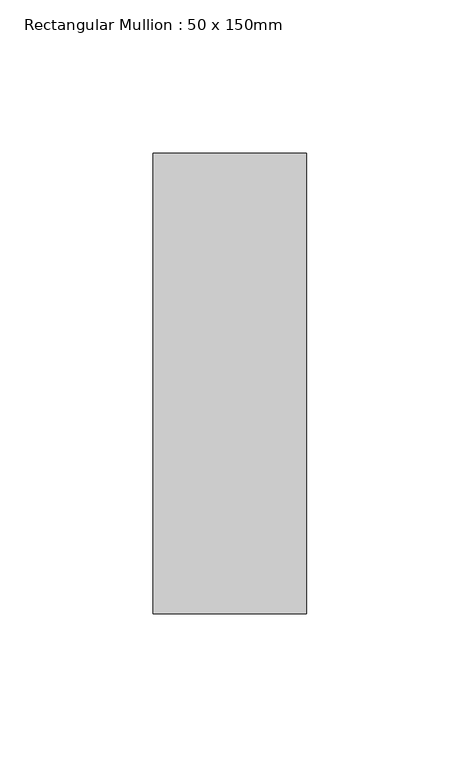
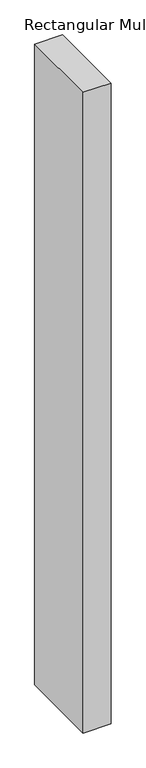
"""IFC4 building model written with IfcOpenShell, lengths in millimetres: member geometry, Rectangular Mullion : 50 x 150mm."""

import ifcopenshell
import ifcopenshell.guid

model = None  # the IFC model being written
_history = None  # IfcOwnerHistory: only IFC2X3 demands one
_inside = {}  # id of a spatial element -> (the spatial element, [elements in it])
_under = {}  # id of a project, library or spatial element -> (it, [spatial elements below it])
_declared = {}  # id of a project -> (the project, [libraries it declares])
_typed = {}  # id of a type object -> (the type object, [elements of that type])
_made_of = {}  # id of a material, layer set ... -> (it, [elements and type objects made of it])


def new_model(schema):
    """Start an empty IFC model of exactly this schema.

    Asked for "IFC4X3", IfcOpenShell would pick the latest addendum, in which some entities
    have other attributes; the version numbers below select the first issue.
    IFC2X3 requires an IfcOwnerHistory on every rooted entity: one is made here for all.
    """
    global model, _history
    if schema == "IFC4X3":
        model = ifcopenshell.file(schema_version=(4, 3, 0, 0))
    else:
        model = ifcopenshell.file(schema=schema)
    _inside.clear()
    _under.clear()
    _declared.clear()
    _typed.clear()
    _made_of.clear()
    _history = None
    if model.schema == "IFC2X3":
        org = make("IfcOrganization", Name="unknown")
        user = make(
            "IfcPersonAndOrganization",
            ThePerson=make("IfcPerson", FamilyName="unknown"),
            TheOrganization=org,
        )
        app = make(
            "IfcApplication",
            ApplicationDeveloper=org,
            Version="unknown",
            ApplicationFullName="unknown",
            ApplicationIdentifier="unknown",
        )
        _history = make(
            "IfcOwnerHistory",
            OwningUser=user,
            OwningApplication=app,
            ChangeAction="ADDED",
            CreationDate=0,
        )
    return model


def make(cls, **values):
    """One entity of the class cls with the attributes given. An attribute that is None is left unset."""
    return model.create_entity(
        cls, **{name: value for name, value in values.items() if value is not None}
    )


def rooted(cls, **values):
    """An entity with a GlobalId (a new one), such as an element, a storey or a relation."""
    return make(cls, GlobalId=ifcopenshell.guid.new(), OwnerHistory=_history, **values)


def si_unit(unit_type, name, prefix=None):
    """IfcSIUnit, for example si_unit("LENGTHUNIT", "METRE", prefix="MILLI")."""
    return make("IfcSIUnit", UnitType=unit_type, Prefix=prefix, Name=name)


def assignment(units):
    """IfcUnitAssignment: the units of a project."""
    return None if units is None else make("IfcUnitAssignment", Units=units)


def point(xyz):
    """IfcCartesianPoint."""
    return None if xyz is None else make("IfcCartesianPoint", Coordinates=xyz)


def direction(xyz):
    """IfcDirection."""
    return None if xyz is None else make("IfcDirection", DirectionRatios=xyz)


def frame(location, z_axis=None, x_axis=None):
    """IfcAxis2Placement3D, a coordinate frame: its origin and axes. An axis left out is left unset."""
    return make(
        "IfcAxis2Placement3D",
        Location=point(location),
        Axis=direction(z_axis),
        RefDirection=direction(x_axis),
    )


def origin():
    """The frame at (0, 0, 0) with its axes left unset."""
    return frame((0.0, 0.0, 0.0))


def place(relative_to, where):
    """IfcLocalPlacement: puts the frame where relative to a parent placement (None: the world)."""
    return make(
        "IfcLocalPlacement", PlacementRelTo=relative_to, RelativePlacement=where
    )


def context(
    kind, dimensions, precision=None, world=None, true_north=None, identifier=None
):
    """IfcGeometricRepresentationContext, for example the 3D "Model" context."""
    return make(
        "IfcGeometricRepresentationContext",
        ContextIdentifier=identifier,
        ContextType=kind,
        CoordinateSpaceDimension=dimensions,
        Precision=precision,
        WorldCoordinateSystem=world,
        TrueNorth=true_north,
    )


def project(units=None, contexts=None):
    """IfcProject with its units and contexts."""
    return rooted(
        "IfcProject",
        Name="project",
        RepresentationContexts=contexts,
        UnitsInContext=assignment(units),
    )


def spatial(cls, under=None, at=None, **own):
    """A site, building, storey or space (cls), placed at a placement, below another one or the project."""
    s = rooted(cls, ObjectPlacement=at, **own)
    if under is not None:
        _under.setdefault(under.id(), (under, []))[1].append(s)
    return s


def polyline(points):
    """IfcPolyline through the points."""
    return make("IfcPolyline", Points=[point(p) for p in points])


def outline(outer, holes=None, kind="AREA"):
    """IfcArbitraryClosedProfileDef: a profile drawn as a closed curve; with holes, ...WithVoids."""
    if holes is None:
        return make("IfcArbitraryClosedProfileDef", ProfileType=kind, OuterCurve=outer)
    return make(
        "IfcArbitraryProfileDefWithVoids",
        ProfileType=kind,
        OuterCurve=outer,
        InnerCurves=holes,
    )


def extrude(swept, where, along, depth):
    """IfcExtrudedAreaSolid: the profile swept, set in the frame where, extruded along a direction by depth."""
    return make(
        "IfcExtrudedAreaSolid",
        SweptArea=swept,
        Position=where,
        ExtrudedDirection=direction(along),
        Depth=depth,
    )


def shape(context_of_items, identifier, shape_type, items):
    """IfcShapeRepresentation: the items that make up one representation, for example the "Body"."""
    return make(
        "IfcShapeRepresentation",
        ContextOfItems=context_of_items,
        RepresentationIdentifier=identifier,
        RepresentationType=shape_type,
        Items=items,
    )


def source(mapping_origin, context_of_items, identifier, shape_type, items):
    """IfcRepresentationMap: a shape defined once, which mapped items show again and again."""
    return make(
        "IfcRepresentationMap",
        MappingOrigin=mapping_origin,
        MappedRepresentation=shape(context_of_items, identifier, shape_type, items),
    )


def transform(
    local_origin,
    x_axis=None,
    y_axis=None,
    z_axis=None,
    scale=None,
    scale2=None,
    scale3=None,
    uniform=True,
):
    """IfcCartesianTransformationOperator3D, or its non-uniform kind. x_axis, y_axis, z_axis: its Axis1, 2, 3."""
    if uniform:
        return make(
            "IfcCartesianTransformationOperator3D",
            Axis1=direction(x_axis),
            Axis2=direction(y_axis),
            LocalOrigin=point(local_origin),
            Scale=scale,
            Axis3=direction(z_axis),
        )
    return make(
        "IfcCartesianTransformationOperator3DnonUniform",
        Axis1=direction(x_axis),
        Axis2=direction(y_axis),
        LocalOrigin=point(local_origin),
        Scale=scale,
        Axis3=direction(z_axis),
        Scale2=scale2,
        Scale3=scale3,
    )


def mapped(mapping_source, mapping_target):
    """IfcMappedItem: shows the shape of a source again, moved by a transform."""
    return make(
        "IfcMappedItem", MappingSource=mapping_source, MappingTarget=mapping_target
    )


def made_of(thing, what):
    """Note that an element or type object is made of a material, layer set ...; save() writes the relation."""
    if what is not None:
        _made_of.setdefault(what.id(), (what, []))[1].append(thing)
    return thing


def element(
    cls,
    number,
    at=None,
    inside=None,
    cuts=None,
    type_object=None,
    material=None,
    context=None,
    identifier="Body",
    shape_type=None,
    held_by="IfcProductDefinitionShape",
    body=None,
    shapes=None,
    **own,
):
    """One element of the class cls, such as IfcWall. Its Tag is "e" and its number.

    at: its placement. inside: the storey or other place that contains it. cuts: it is an
    opening in that element (IfcRelVoidsElement). A single representation is given by context,
    identifier, shape_type and body (its items); several are given by shapes. held_by: the class
    of the entity that holds the representations. save() writes the other relations.
    """
    e = rooted(cls, Tag="e%d" % number, ObjectPlacement=at, **own)
    if body is not None:
        shapes = [shape(context, identifier, shape_type, body)]
    if shapes is not None:
        e.Representation = make(held_by, Representations=shapes)
    if inside is not None:
        _inside.setdefault(inside.id(), (inside, []))[1].append(e)
    if cuts is not None:
        rooted(
            "IfcRelVoidsElement", RelatingBuildingElement=cuts, RelatedOpeningElement=e
        )
    if type_object is not None:
        _typed.setdefault(type_object.id(), (type_object, []))[1].append(e)
    return made_of(e, material)


def aggregate(whole, parts):
    """IfcRelAggregates: a whole, such as a stair, and the parts it consists of."""
    return rooted("IfcRelAggregates", RelatingObject=whole, RelatedObjects=parts)


def save(model, path):
    """Write the relations noted so far, then the file.

    IfcRelAggregates (storeys below a building ...), IfcRelContainedInSpatialStructure (elements
    in a storey), IfcRelDefinesByType, IfcRelAssociatesMaterial and IfcRelDeclares: one each for
    every whole, place, type object, material and project.
    """
    for whole, parts in _under.values():
        aggregate(whole, parts)
    for where, things in _inside.values():
        rooted(
            "IfcRelContainedInSpatialStructure",
            RelatedElements=things,
            RelatingStructure=where,
        )
    for kind, things in _typed.values():
        rooted("IfcRelDefinesByType", RelatedObjects=things, RelatingType=kind)
    for what, things in _made_of.values():
        rooted("IfcRelAssociatesMaterial", RelatedObjects=things, RelatingMaterial=what)
    for by, libraries in _declared.values():
        rooted("IfcRelDeclares", RelatingContext=by, RelatedDefinitions=libraries)
    model.write(path)


def rectangular_mullion_50_x_150mm_0e9be1a1(model_context):
    return source(origin(), model_context, "Body", "SweptSolid", [
        extrude(outline(polyline([(0.0, 0.0), (-0.1145663, -50.0), (-1210.4989129, -50.0), (-1210.5712182, 0.0), (0.0, 0.0)])), frame((0.0, -75.0, 0.0), z_axis=(0.0, 1.0, 0.0), x_axis=(0.0, 0.0, 1.0)), (0.0, 0.0, 1.0), 150.0),
    ])


if __name__ == "__main__":
    model = new_model("IFC4")
    model_context = context("Model", 3, world=origin())
    ifc_project = project(units=[si_unit("LENGTHUNIT", "METRE", prefix="MILLI")], contexts=[model_context])
    site = spatial("IfcSite", under=ifc_project)
    building = spatial("IfcBuilding", under=site)
    placement = place(None, origin())
    rectangular_mullion_50_x_150mm_shape = rectangular_mullion_50_x_150mm_0e9be1a1(model_context)
    element("IfcMember", 1, ObjectType="Rectangular Mullion : 50 x 150mm", at=placement, inside=building, context=model_context, shape_type="MappedRepresentation", body=[
        mapped(rectangular_mullion_50_x_150mm_shape, transform((0.0, 0.0, 0.0), x_axis=(1.0, 0.0, 0.0), y_axis=(0.0, 1.0, 0.0), z_axis=(0.0, 0.0, 1.0))),
    ])
    save(model, "model.ifc")
